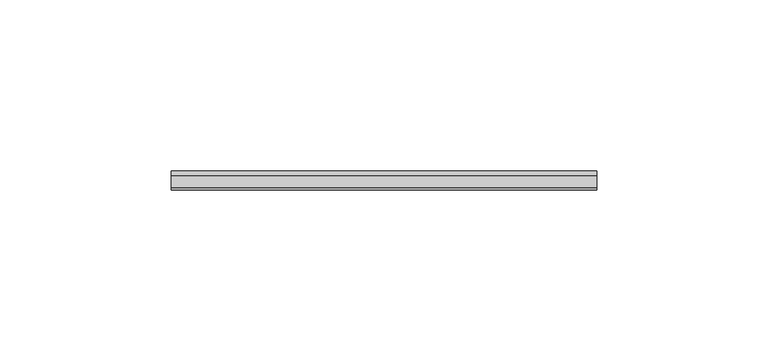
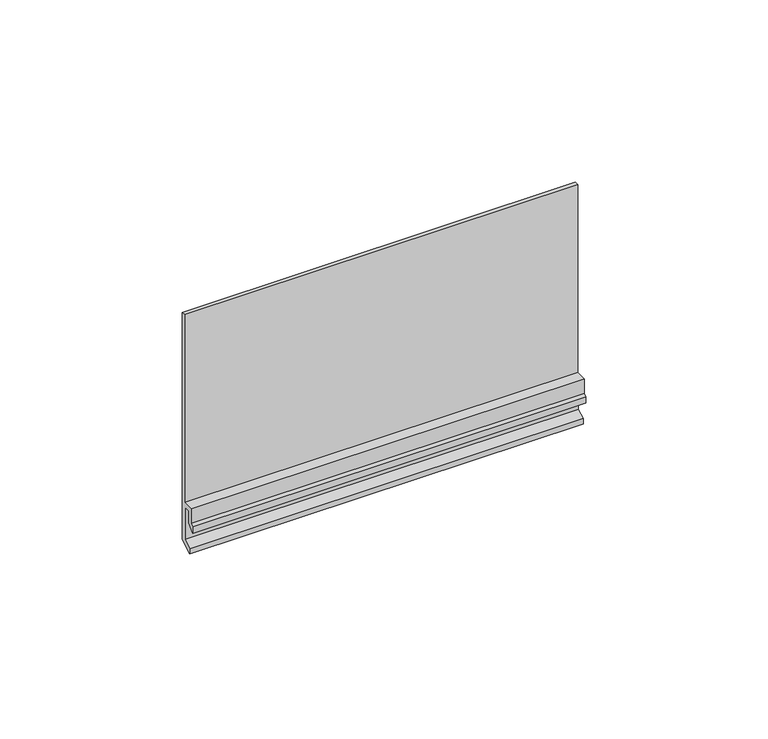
"""IFC4 building model written with IfcOpenShell, lengths in millimetres: plate geometry, FastPlank_P44V-V-Notch-4″-Plank-Horizontal : P44V-V-Notch-4″-Plank-Horizontal."""

from ifc_helpers import new_model, si_unit, frame, origin, place, context, project, spatial, polyline, outline, extrude, source, transform, mapped, element, save


def plate_ab3a2ce4(model_context):
    return source(origin(), model_context, "Body", "SweptSolid", [
        extrude(outline(polyline([(18.8745946, 2.3957023), (14.7246029, 0.0), (14.7246029, 1.7319938), (17.3745976, 3.2617795), (17.3745976, 13.9827581), (15.5246013, 13.9827581), (15.5246013, 9.9691576), (13.3162936, 7.7608499), (13.3162936, 9.8794005), (14.0246043, 10.5877112), (14.0246043, 15.4863039), (17.5745972, 15.4863039), (17.5745972, 78.3636711), (18.8745946, 78.3636711), (18.8745946, 2.3957023)])), frame((-62.199981, 0.0, 0.0), z_axis=(1.0, 0.0, 0.0), x_axis=(0.0, 1.0, 0.0)), (0.0, 0.0, 1.0), 124.3999619),
    ])


if __name__ == "__main__":
    model = new_model("IFC4")
    model_context = context("Model", 3, world=origin())
    ifc_project = project(units=[si_unit("LENGTHUNIT", "METRE", prefix="MILLI")], contexts=[model_context])
    site = spatial("IfcSite", under=ifc_project)
    building = spatial("IfcBuilding", under=site)
    placement = place(None, origin())
    plate_shape = plate_ab3a2ce4(model_context)
    element("IfcPlate", 1, ObjectType="FastPlank_P44V-V-Notch-4″-Plank-Horizontal : P44V-V-Notch-4″-Plank-Horizontal", at=placement, inside=building, context=model_context, shape_type="MappedRepresentation", body=[
        mapped(plate_shape, transform((0.0, 0.0, 0.0), x_axis=(1.0, 0.0, 0.0), y_axis=(0.0, 1.0, 0.0), z_axis=(0.0, 0.0, 1.0))),
    ])
    save(model, "model.ifc")
